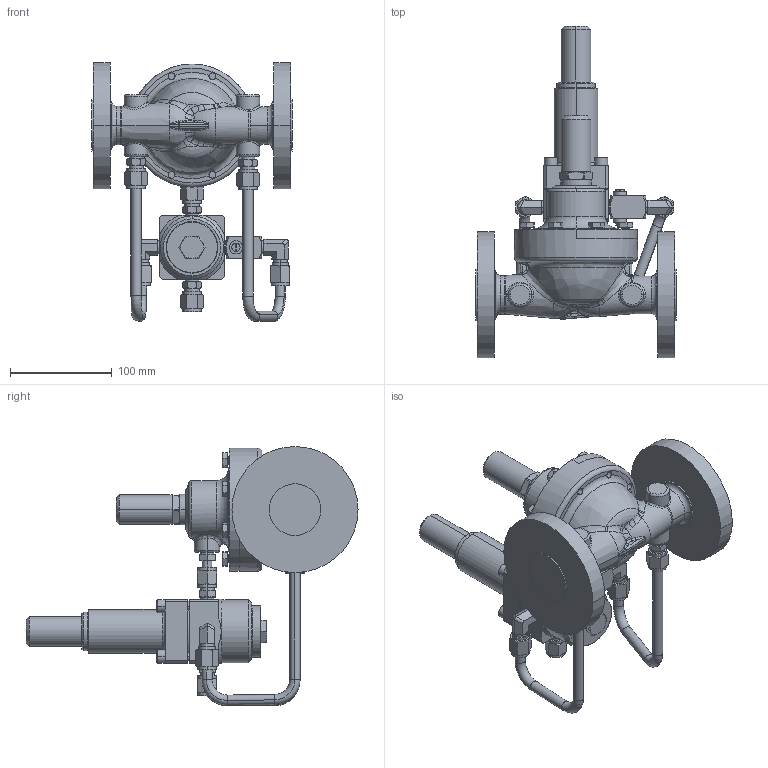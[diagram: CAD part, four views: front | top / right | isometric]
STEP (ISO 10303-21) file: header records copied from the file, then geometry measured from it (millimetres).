
FILE_DESCRIPTION((''),'2;1');
FILE_NAME('230104_ARGOS_1_300_SW0001','2019-10-29T',('jjunior'),(''),'PRO/ENGINEER BY PARAMETRIC TECHNOLOGY CORPORATION, 2010160','PRO/ENGINEER BY PARAMETRIC TECHNOLOGY CORPORATION, 2010160','');
FILE_SCHEMA(('CONFIG_CONTROL_DESIGN'));
Length unit declared in the file: millimetre
Products named in the file (1): 230104_ARGOS_1_300_SW0001
Bounding box: 197 x 326.5 x 254.65 mm (x, y, z)
Volume: 1917530.8 mm3; surface area: 218836.6 mm2
Topology: 1 solids, 1 shells, 986 faces, 2278 edges, 1386 vertices
Faces by surface type: plane 304, cone 274, cylinder 215, bspline 116, torus 77
Entity records: 39402 total; most frequent: CARTESIAN_POINT 18345, ORIENTED_EDGE 4556, DIRECTION 4118, EDGE_CURVE 2278, AXIS2_PLACEMENT_3D 1759, VERTEX_POINT 1386, EDGE_LOOP 1090, FACE_OUTER_BOUND 986
